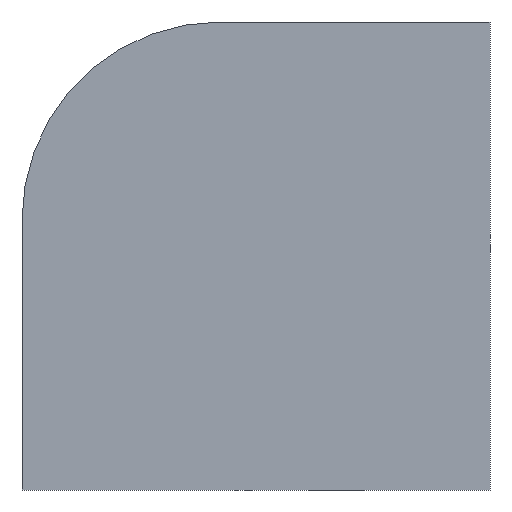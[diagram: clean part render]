
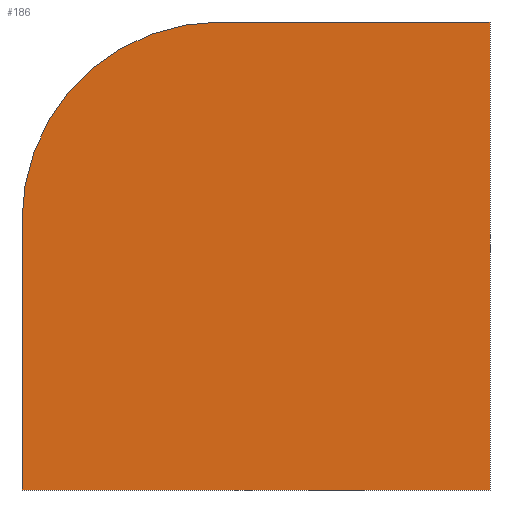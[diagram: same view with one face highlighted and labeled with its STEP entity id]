
A CAD part, front view. The second image highlights one B-rep face of the part: STEP entity #186.
In plain terms, the highlighted planar face has unit normal (0, -1, 0).
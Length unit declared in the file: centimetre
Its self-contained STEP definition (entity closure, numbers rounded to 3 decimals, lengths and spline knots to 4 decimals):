
#2 = CIRCLE ( 'NONE', #288, 422.5223 ) ;
#11 = CARTESIAN_POINT ( 'NONE',  ( 1000., 0., 0. ) ) ;
#15 = ORIENTED_EDGE ( 'NONE', *, *, #273, .T. ) ;
#22 = DIRECTION ( 'NONE',  ( 0., 0., -1. ) ) ;
#40 = CARTESIAN_POINT ( 'NONE',  ( 0., 0., 0. ) ) ;
#42 = VERTEX_POINT ( 'NONE', #363 ) ;
#44 = CARTESIAN_POINT ( 'NONE',  ( 0., 0., 577.4777 ) ) ;
#48 = DIRECTION ( 'NONE',  ( 0., 0., 1. ) ) ;
#54 = CARTESIAN_POINT ( 'NONE',  ( 422.5223, 0., 577.4777 ) ) ;
#59 = ORIENTED_EDGE ( 'NONE', *, *, #216, .T. ) ;
#76 = DIRECTION ( 'NONE',  ( 0., -1., 0. ) ) ;
#78 = DIRECTION ( 'NONE',  ( 1., 0., 0. ) ) ;
#79 = CARTESIAN_POINT ( 'NONE',  ( 1000., 0., 1000. ) ) ;
#87 = EDGE_CURVE ( 'NONE', #42, #256, #325, .T. ) ;
#97 = ORIENTED_EDGE ( 'NONE', *, *, #261, .F. ) ;
#101 = CARTESIAN_POINT ( 'NONE',  ( 0., 0., 0. ) ) ;
#102 = VECTOR ( 'NONE', #78, 100. ) ;
#113 = VECTOR ( 'NONE', #263, 100. ) ;
#118 = VERTEX_POINT ( 'NONE', #40 ) ;
#121 = VERTEX_POINT ( 'NONE', #11 ) ;
#137 = EDGE_CURVE ( 'NONE', #150, #118, #260, .T. ) ;
#142 = VECTOR ( 'NONE', #22, 100. ) ;
#150 = VERTEX_POINT ( 'NONE', #44 ) ;
#151 = CARTESIAN_POINT ( 'NONE',  ( 0., 0., 1000. ) ) ;
#158 = LINE ( 'NONE', #79, #142 ) ;
#162 = VECTOR ( 'NONE', #328, 100. ) ;
#186 = ADVANCED_FACE ( 'NONE', ( #309 ), #224, .F. ) ;
#191 = DIRECTION ( 'NONE',  ( 0., 0., 1. ) ) ;
#202 = ORIENTED_EDGE ( 'NONE', *, *, #87, .F. ) ;
#215 = ORIENTED_EDGE ( 'NONE', *, *, #137, .T. ) ;
#216 = EDGE_CURVE ( 'NONE', #42, #150, #2, .T. ) ;
#222 = LINE ( 'NONE', #101, #102 ) ;
#224 = PLANE ( 'NONE',  #355 ) ;
#256 = VERTEX_POINT ( 'NONE', #278 ) ;
#260 = LINE ( 'NONE', #151, #162 ) ;
#261 = EDGE_CURVE ( 'NONE', #256, #121, #158, .T. ) ;
#263 = DIRECTION ( 'NONE',  ( 1., 0., 0. ) ) ;
#264 = EDGE_LOOP ( 'NONE', ( #202, #59, #215, #15, #97 ) ) ;
#267 = CARTESIAN_POINT ( 'NONE',  ( 0., 0., 1000. ) ) ;
#273 = EDGE_CURVE ( 'NONE', #118, #121, #222, .T. ) ;
#278 = CARTESIAN_POINT ( 'NONE',  ( 1000., 0., 1000. ) ) ;
#288 = AXIS2_PLACEMENT_3D ( 'NONE', #54, #76, #191 ) ;
#304 = CARTESIAN_POINT ( 'NONE',  ( 0., 0., 1000. ) ) ;
#309 = FACE_OUTER_BOUND ( 'NONE', #264, .T. ) ;
#325 = LINE ( 'NONE', #267, #113 ) ;
#328 = DIRECTION ( 'NONE',  ( 0., 0., -1. ) ) ;
#355 = AXIS2_PLACEMENT_3D ( 'NONE', #304, #368, #48 ) ;
#363 = CARTESIAN_POINT ( 'NONE',  ( 422.5223, 0., 1000. ) ) ;
#368 = DIRECTION ( 'NONE',  ( 0., 1., 0. ) ) ;
